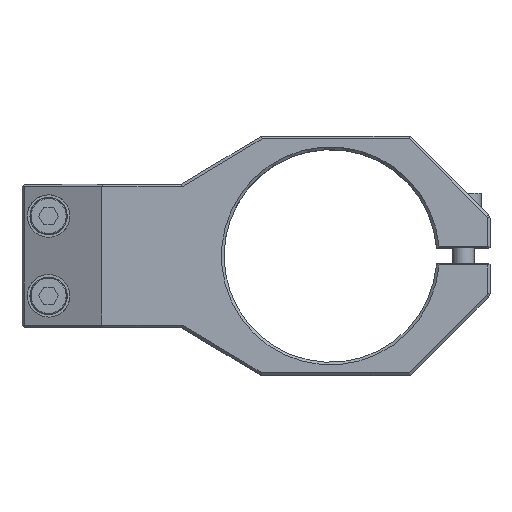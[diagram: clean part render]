
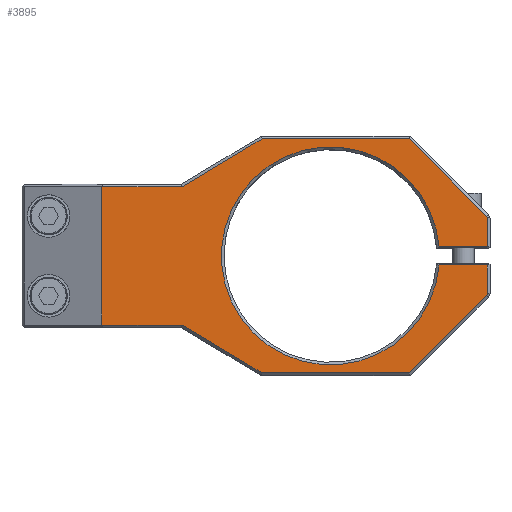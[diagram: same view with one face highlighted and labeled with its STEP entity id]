
A CAD part, top view. The second image highlights one B-rep face of the part: STEP entity #3895.
In plain terms, the highlighted planar face has unit normal (0, 0, 1).
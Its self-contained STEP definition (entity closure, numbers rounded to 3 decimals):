
#64 = LINE ( 'NONE', #7627, #5649 ) ;
#197 = VERTEX_POINT ( 'NONE', #278 ) ;
#229 = ORIENTED_EDGE ( 'NONE', *, *, #2400, .T. ) ;
#278 = CARTESIAN_POINT ( 'NONE',  ( -13.862, 13., 25. ) ) ;
#320 = ORIENTED_EDGE ( 'NONE', *, *, #6146, .T. ) ;
#549 = CARTESIAN_POINT ( 'NONE',  ( -29., -13.5, 25. ) ) ;
#681 = VERTEX_POINT ( 'NONE', #1676 ) ;
#695 = LINE ( 'NONE', #9171, #6631 ) ;
#698 = ORIENTED_EDGE ( 'NONE', *, *, #2616, .T. ) ;
#851 = ORIENTED_EDGE ( 'NONE', *, *, #1978, .T. ) ;
#855 = CARTESIAN_POINT ( 'NONE',  ( -9.405, -15.674, 25. ) ) ;
#1065 = DIRECTION ( 'NONE',  ( 1., 0., 0. ) ) ;
#1310 = LINE ( 'NONE', #549, #1922 ) ;
#1330 = CARTESIAN_POINT ( 'NONE',  ( -29., -13., 25. ) ) ;
#1376 = VERTEX_POINT ( 'NONE', #7324 ) ;
#1497 = CARTESIAN_POINT ( 'NONE',  ( 1.138, 22., 25. ) ) ;
#1618 = VERTEX_POINT ( 'NONE', #1330 ) ;
#1676 = CARTESIAN_POINT ( 'NONE',  ( 28.793, -22., 25. ) ) ;
#1686 = DIRECTION ( 'NONE',  ( 1., 0., 0. ) ) ;
#1922 = VECTOR ( 'NONE', #8827, 1000. ) ;
#1978 = EDGE_CURVE ( 'NONE', #5920, #1376, #5132, .T. ) ;
#2104 = ORIENTED_EDGE ( 'NONE', *, *, #9464, .T. ) ;
#2262 = CARTESIAN_POINT ( 'NONE',  ( 28.793, 22., 25. ) ) ;
#2289 = DIRECTION ( 'NONE',  ( -1., 0., 0. ) ) ;
#2400 = EDGE_CURVE ( 'NONE', #2681, #5002, #2477, .T. ) ;
#2430 = ORIENTED_EDGE ( 'NONE', *, *, #3579, .T. ) ;
#2477 = LINE ( 'NONE', #855, #5501 ) ;
#2496 = VERTEX_POINT ( 'NONE', #2682 ) ;
#2501 = ORIENTED_EDGE ( 'NONE', *, *, #8045, .T. ) ;
#2616 = EDGE_CURVE ( 'NONE', #5798, #197, #695, .T. ) ;
#2646 = VECTOR ( 'NONE', #6737, 1000. ) ;
#2681 = VERTEX_POINT ( 'NONE', #3697 ) ;
#2682 = CARTESIAN_POINT ( 'NONE',  ( -29., 13., 25. ) ) ;
#2791 = CARTESIAN_POINT ( 'NONE',  ( 34.445, -1.7, 25. ) ) ;
#2942 = LINE ( 'NONE', #7047, #8856 ) ;
#2987 = VECTOR ( 'NONE', #5906, 1000. ) ;
#3031 = DIRECTION ( 'NONE',  ( 0., 0., 1. ) ) ;
#3058 = VECTOR ( 'NONE', #4257, 1000. ) ;
#3129 = EDGE_CURVE ( 'NONE', #197, #2496, #5404, .T. ) ;
#3162 = EDGE_CURVE ( 'NONE', #3956, #6352, #10041, .T. ) ;
#3293 = LINE ( 'NONE', #5581, #8256 ) ;
#3579 = EDGE_CURVE ( 'NONE', #1618, #2681, #3293, .T. ) ;
#3697 = CARTESIAN_POINT ( 'NONE',  ( -13.862, -13., 25. ) ) ;
#3825 = LINE ( 'NONE', #7713, #6098 ) ;
#3884 = DIRECTION ( 'NONE',  ( -1., 0., 0. ) ) ;
#3895 = ADVANCED_FACE ( 'NONE', ( #4561 ), #10035, .T. ) ;
#3939 = ORIENTED_EDGE ( 'NONE', *, *, #5963, .T. ) ;
#3956 = VERTEX_POINT ( 'NONE', #7082 ) ;
#3959 = DIRECTION ( 'NONE',  ( 0.857, -0.514, 0. ) ) ;
#4257 = DIRECTION ( 'NONE',  ( 1., 0., 0. ) ) ;
#4429 = CARTESIAN_POINT ( 'NONE',  ( 43.5, 7.5, 25. ) ) ;
#4449 = CARTESIAN_POINT ( 'NONE',  ( 43.5, -7.293, 25. ) ) ;
#4491 = CARTESIAN_POINT ( 'NONE',  ( 1.138, -22., 25. ) ) ;
#4541 = DIRECTION ( 'NONE',  ( 1., 0., 0. ) ) ;
#4546 = VERTEX_POINT ( 'NONE', #4449 ) ;
#4561 = FACE_OUTER_BOUND ( 'NONE', #8340, .T. ) ;
#4639 = LINE ( 'NONE', #9248, #6897 ) ;
#4650 = CARTESIAN_POINT ( 'NONE',  ( -29., 13., 25. ) ) ;
#4744 = DIRECTION ( 'NONE',  ( 0., 1., 0. ) ) ;
#5002 = VERTEX_POINT ( 'NONE', #4491 ) ;
#5113 = ORIENTED_EDGE ( 'NONE', *, *, #7030, .T. ) ;
#5132 = LINE ( 'NONE', #4429, #2987 ) ;
#5144 = ORIENTED_EDGE ( 'NONE', *, *, #8005, .T. ) ;
#5184 = DIRECTION ( 'NONE',  ( -1., 0., 0. ) ) ;
#5404 = LINE ( 'NONE', #4650, #5843 ) ;
#5420 = DIRECTION ( 'NONE',  ( 1., 0., 0. ) ) ;
#5501 = VECTOR ( 'NONE', #3959, 1000. ) ;
#5581 = CARTESIAN_POINT ( 'NONE',  ( -14., -13., 25. ) ) ;
#5649 = VECTOR ( 'NONE', #4744, 1000. ) ;
#5798 = VERTEX_POINT ( 'NONE', #1497 ) ;
#5823 = VERTEX_POINT ( 'NONE', #2262 ) ;
#5843 = VECTOR ( 'NONE', #3884, 1000. ) ;
#5906 = DIRECTION ( 'NONE',  ( 0., 1., 0. ) ) ;
#5920 = VERTEX_POINT ( 'NONE', #7023 ) ;
#5963 = EDGE_CURVE ( 'NONE', #2496, #1618, #1310, .T. ) ;
#6098 = VECTOR ( 'NONE', #4541, 1000. ) ;
#6133 = CARTESIAN_POINT ( 'NONE',  ( 43.5, -1.7, 25. ) ) ;
#6146 = EDGE_CURVE ( 'NONE', #5002, #681, #8098, .T. ) ;
#6310 = EDGE_CURVE ( 'NONE', #4546, #9739, #64, .T. ) ;
#6352 = VERTEX_POINT ( 'NONE', #9207 ) ;
#6631 = VECTOR ( 'NONE', #8254, 1000. ) ;
#6688 = CARTESIAN_POINT ( 'NONE',  ( 25.396, -25.396, 25. ) ) ;
#6737 = DIRECTION ( 'NONE',  ( 0.707, 0.707, 0. ) ) ;
#6827 = ORIENTED_EDGE ( 'NONE', *, *, #8409, .T. ) ;
#6847 = DIRECTION ( 'NONE',  ( -0.707, 0.707, 0. ) ) ;
#6897 = VECTOR ( 'NONE', #2289, 1000. ) ;
#7023 = CARTESIAN_POINT ( 'NONE',  ( 43.5, 1.7, 25. ) ) ;
#7030 = EDGE_CURVE ( 'NONE', #681, #4546, #9120, .T. ) ;
#7047 = CARTESIAN_POINT ( 'NONE',  ( 25.396, 25.396, 25. ) ) ;
#7082 = CARTESIAN_POINT ( 'NONE',  ( 34.429, -1.7, 25. ) ) ;
#7114 = AXIS2_PLACEMENT_3D ( 'NONE', #9989, #3031, #5420 ) ;
#7285 = CARTESIAN_POINT ( 'NONE',  ( 29., -22., 25. ) ) ;
#7324 = CARTESIAN_POINT ( 'NONE',  ( 43.5, 7.293, 25. ) ) ;
#7627 = CARTESIAN_POINT ( 'NONE',  ( 43.5, -1.5, 25. ) ) ;
#7713 = CARTESIAN_POINT ( 'NONE',  ( 43.5, 1.7, 25. ) ) ;
#8005 = EDGE_CURVE ( 'NONE', #6352, #5920, #3825, .T. ) ;
#8045 = EDGE_CURVE ( 'NONE', #5823, #5798, #4639, .T. ) ;
#8098 = LINE ( 'NONE', #7285, #3058 ) ;
#8180 = ORIENTED_EDGE ( 'NONE', *, *, #3162, .T. ) ;
#8254 = DIRECTION ( 'NONE',  ( -0.857, -0.514, 0. ) ) ;
#8256 = VECTOR ( 'NONE', #1065, 1000. ) ;
#8340 = EDGE_LOOP ( 'NONE', ( #8971, #2104, #8180, #5144, #851, #6827, #2501, #698, #9204, #3939, #2430, #229, #320, #5113 ) ) ;
#8409 = EDGE_CURVE ( 'NONE', #1376, #5823, #2942, .T. ) ;
#8827 = DIRECTION ( 'NONE',  ( 0., -1., 0. ) ) ;
#8856 = VECTOR ( 'NONE', #6847, 1000. ) ;
#8971 = ORIENTED_EDGE ( 'NONE', *, *, #6310, .T. ) ;
#9107 = VECTOR ( 'NONE', #5184, 1000. ) ;
#9120 = LINE ( 'NONE', #6688, #2646 ) ;
#9171 = CARTESIAN_POINT ( 'NONE',  ( -9.405, 15.674, 25. ) ) ;
#9204 = ORIENTED_EDGE ( 'NONE', *, *, #3129, .T. ) ;
#9207 = CARTESIAN_POINT ( 'NONE',  ( 34.429, 1.7, 25. ) ) ;
#9248 = CARTESIAN_POINT ( 'NONE',  ( 1., 22., 25. ) ) ;
#9356 = CARTESIAN_POINT ( 'NONE',  ( 14., 0., 25. ) ) ;
#9410 = DIRECTION ( 'NONE',  ( 0., 0., -1. ) ) ;
#9464 = EDGE_CURVE ( 'NONE', #9739, #3956, #9748, .T. ) ;
#9548 = AXIS2_PLACEMENT_3D ( 'NONE', #9356, #9410, #1686 ) ;
#9739 = VERTEX_POINT ( 'NONE', #6133 ) ;
#9748 = LINE ( 'NONE', #2791, #9107 ) ;
#9989 = CARTESIAN_POINT ( 'NONE',  ( 0., 0., 25. ) ) ;
#10035 = PLANE ( 'NONE',  #7114 ) ;
#10041 = CIRCLE ( 'NONE', #9548, 20.5 ) ;
